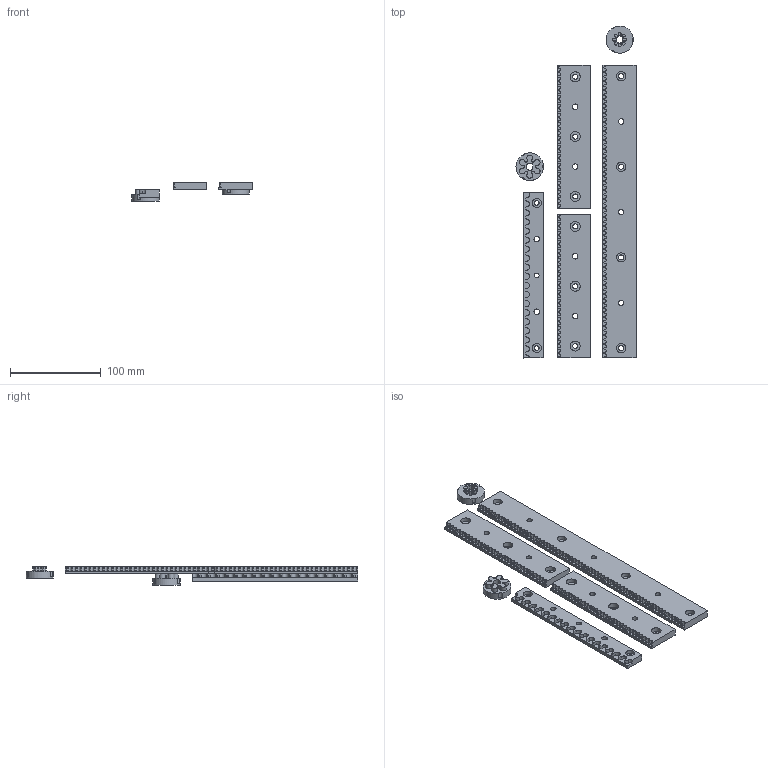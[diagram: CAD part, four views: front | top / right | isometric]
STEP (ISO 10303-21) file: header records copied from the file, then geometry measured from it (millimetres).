
FILE_DESCRIPTION(/* description */ (''),/* implementation_level */ '2;1');
FILE_NAME(/* name */ 'C:/Users/jakob/Documents/GitHub/fabricatable-machines/hedy-pcb-cnc/rack_and_pinion_STEP.step',/* time_stamp */ '2018-10-01T13:54:56+02:00',/* author */ (''),/* organization */ (''),/* preprocessor_version */ 'ST-DEVELOPER v17.2',/* originating_system */ 'Autodesk Translation Framework v7.6.0.251',/* authorisation */ '');
FILE_SCHEMA (('AUTOMOTIVE_DESIGN { 1 0 10303 214 3 1 1 }'));
Products named in the file (8): Drive_system; racks; x-y_table_long_rack v6; short_rack; short_rack_1; vachro rack v2; 40 pinion dual gap v2; large pinion 60 circ v2
Assembly tree (7 placements, depth 3):
  Drive_system
    racks
      x-y_table_long_rack v6
      short_rack
      short_rack_1
    vachro rack v2
    40 pinion dual gap v2
    large pinion 60 circ v2
Bounding box: 132.51 x 366.18 x 20.6 mm (x, y, z)
Volume: 211017.7 mm3; surface area: 81589.1 mm2
Topology: 6 solids, 6 shells, 1041 faces, 3090 edges, 2075 vertices
Faces by surface type: bspline 737, cylinder 250, plane 54
Full cylindrical faces by diameter (mm): 5.1 x3, 5.5 x10, 6 x7, 6.1 x2, 10 x6, 11 x6, 30 x1, 30.399 x1
Entity records: 53721 total; most frequent: CARTESIAN_POINT 30854, ORIENTED_EDGE 6180, EDGE_CURVE 3090, DIRECTION 2405, VERTEX_POINT 2075, B_SPLINE_CURVE_WITH_KNOTS 1845, EDGE_LOOP 1103, FACE_OUTER_BOUND 1041
